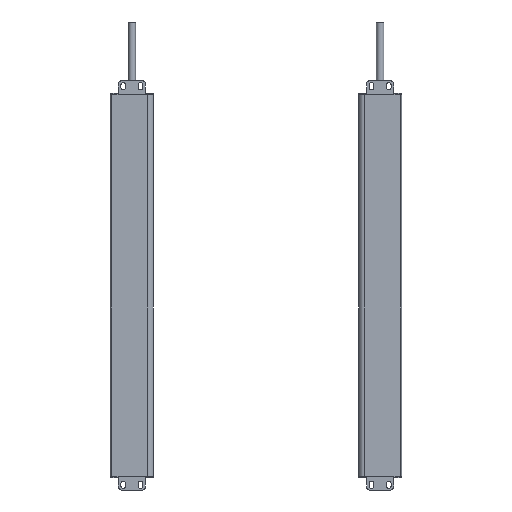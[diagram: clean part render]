
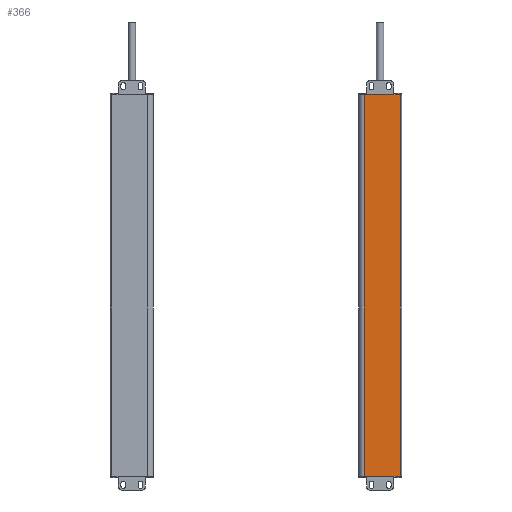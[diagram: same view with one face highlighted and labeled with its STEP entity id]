
A CAD part, front view. The second image highlights one B-rep face of the part: STEP entity #366.
In plain terms, the highlighted planar face has unit normal (0, -1, 0).
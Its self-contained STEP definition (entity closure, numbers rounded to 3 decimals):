
#123=PLANE('',#5869);
#366=ADVANCED_FACE('',(#797),#123,.T.);
#797=FACE_OUTER_BOUND('',#1073,.T.);
#1073=EDGE_LOOP('',(#1780,#1781,#1782,#1783));
#1780=ORIENTED_EDGE('',*,*,#3977,.T.);
#1781=ORIENTED_EDGE('',*,*,#3978,.F.);
#1782=ORIENTED_EDGE('',*,*,#3979,.F.);
#1783=ORIENTED_EDGE('',*,*,#3903,.T.);
#3351=VERTEX_POINT('',#8106);
#3352=VERTEX_POINT('',#8108);
#3421=VERTEX_POINT('',#8253);
#3422=VERTEX_POINT('',#8257);
#3903=EDGE_CURVE('',#3352,#3351,#4726,.T.);
#3977=EDGE_CURVE('',#3351,#3421,#4771,.T.);
#3978=EDGE_CURVE('',#3422,#3421,#4772,.T.);
#3979=EDGE_CURVE('',#3352,#3422,#4773,.T.);
#4726=LINE('',#8107,#5280);
#4771=LINE('',#8254,#5325);
#4772=LINE('',#8256,#5326);
#4773=LINE('',#8258,#5327);
#5280=VECTOR('',#6413,1.);
#5325=VECTOR('',#6522,1.);
#5326=VECTOR('',#6525,1.);
#5327=VECTOR('',#6526,1.);
#5869=AXIS2_PLACEMENT_3D('',#8259,#6527,#6528);
#6413=DIRECTION('',(1.,0.,0.));
#6522=DIRECTION('',(0.,0.,1.));
#6525=DIRECTION('',(1.,0.,0.));
#6526=DIRECTION('',(0.,0.,1.));
#6527=DIRECTION('',(0.,-1.,0.));
#6528=DIRECTION('',(-1.,0.,0.));
#8106=CARTESIAN_POINT('',(3.35,-1.3,-100.));
#8107=CARTESIAN_POINT('',(-21.15,-1.3,-100.));
#8108=CARTESIAN_POINT('',(-21.15,-1.3,-100.));
#8253=CARTESIAN_POINT('',(3.35,-1.3,162.));
#8254=CARTESIAN_POINT('',(3.35,-1.3,-100.));
#8256=CARTESIAN_POINT('',(-4122.897,-1.3,162.));
#8257=CARTESIAN_POINT('',(-21.15,-1.3,162.));
#8258=CARTESIAN_POINT('',(-21.15,-1.3,-100.));
#8259=CARTESIAN_POINT('',(-21.15,-1.3,-100.));
